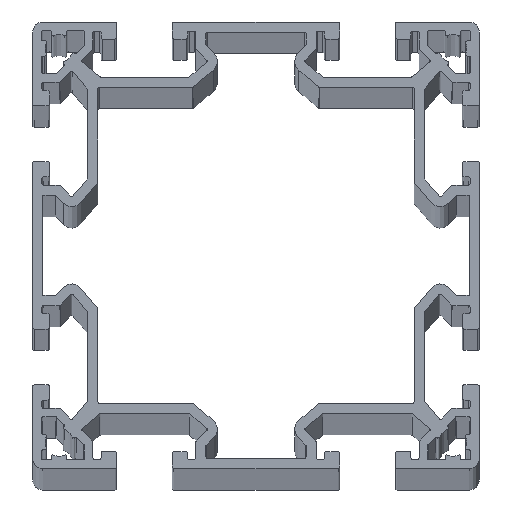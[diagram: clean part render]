
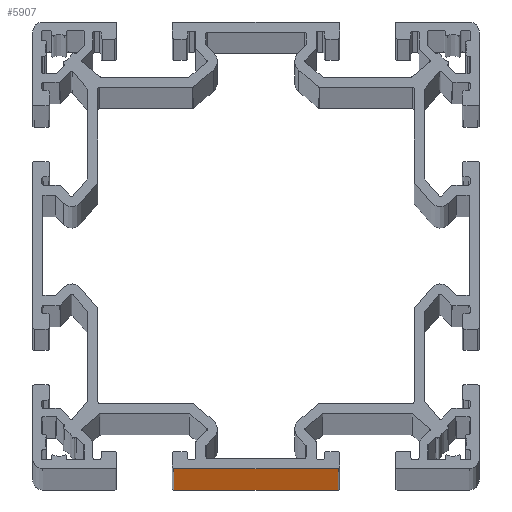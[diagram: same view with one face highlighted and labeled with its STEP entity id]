
A CAD part, top view. The second image highlights one B-rep face of the part: STEP entity #5907.
In plain terms, the highlighted planar face has unit normal (0, -1, 0).
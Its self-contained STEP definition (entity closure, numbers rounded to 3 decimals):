
#173 = CARTESIAN_POINT ( 'NONE',  ( -16.2, -44., -2415.43 ) ) ;
#366 = EDGE_CURVE ( 'NONE', #9882, #10251, #10817, .T. ) ;
#653 = CARTESIAN_POINT ( 'NONE',  ( -16.2, -44., -2415.43 ) ) ;
#757 = CARTESIAN_POINT ( 'NONE',  ( 16.2, -44., -2415.43 ) ) ;
#779 = LINE ( 'NONE', #12370, #10179 ) ;
#951 = CARTESIAN_POINT ( 'NONE',  ( 16.2, -44., 0. ) ) ;
#1235 = VECTOR ( 'NONE', #12620, 1000. ) ;
#1580 = LINE ( 'NONE', #653, #1987 ) ;
#1914 = CARTESIAN_POINT ( 'NONE',  ( -16.2, -44., 0. ) ) ;
#1987 = VECTOR ( 'NONE', #5591, 1000. ) ;
#2517 = EDGE_CURVE ( 'NONE', #11126, #10251, #11122, .T. ) ;
#3196 = DIRECTION ( 'NONE',  ( 0., 0., 1. ) ) ;
#4681 = FACE_OUTER_BOUND ( 'NONE', #9124, .T. ) ;
#5188 = EDGE_CURVE ( 'NONE', #13336, #11126, #1580, .T. ) ;
#5437 = EDGE_CURVE ( 'NONE', #13336, #9882, #779, .T. ) ;
#5591 = DIRECTION ( 'NONE',  ( -1., 0., 0. ) ) ;
#5907 = ADVANCED_FACE ( 'NONE', ( #4681 ), #9326, .F. ) ;
#7306 = ORIENTED_EDGE ( 'NONE', *, *, #2517, .F. ) ;
#8243 = DIRECTION ( 'NONE',  ( 0., 1., 0. ) ) ;
#9124 = EDGE_LOOP ( 'NONE', ( #11594, #7306, #10948, #10768 ) ) ;
#9326 = PLANE ( 'NONE',  #11320 ) ;
#9882 = VERTEX_POINT ( 'NONE', #951 ) ;
#10179 = VECTOR ( 'NONE', #13466, 1000. ) ;
#10251 = VERTEX_POINT ( 'NONE', #1914 ) ;
#10768 = ORIENTED_EDGE ( 'NONE', *, *, #5437, .T. ) ;
#10817 = LINE ( 'NONE', #12741, #1235 ) ;
#10948 = ORIENTED_EDGE ( 'NONE', *, *, #5188, .F. ) ;
#10996 = CARTESIAN_POINT ( 'NONE',  ( -16.2, -44., -2415.43 ) ) ;
#11122 = LINE ( 'NONE', #10996, #13693 ) ;
#11126 = VERTEX_POINT ( 'NONE', #173 ) ;
#11320 = AXIS2_PLACEMENT_3D ( 'NONE', #14272, #8243, #3196 ) ;
#11594 = ORIENTED_EDGE ( 'NONE', *, *, #366, .T. ) ;
#12370 = CARTESIAN_POINT ( 'NONE',  ( 16.2, -44., -2415.43 ) ) ;
#12620 = DIRECTION ( 'NONE',  ( -1., 0., 0. ) ) ;
#12741 = CARTESIAN_POINT ( 'NONE',  ( -16.2, -44., 0. ) ) ;
#13336 = VERTEX_POINT ( 'NONE', #757 ) ;
#13466 = DIRECTION ( 'NONE',  ( 0., 0., 1. ) ) ;
#13693 = VECTOR ( 'NONE', #16132, 1000. ) ;
#14272 = CARTESIAN_POINT ( 'NONE',  ( -16.2, -44., -2415.43 ) ) ;
#16132 = DIRECTION ( 'NONE',  ( 0., 0., 1. ) ) ;
